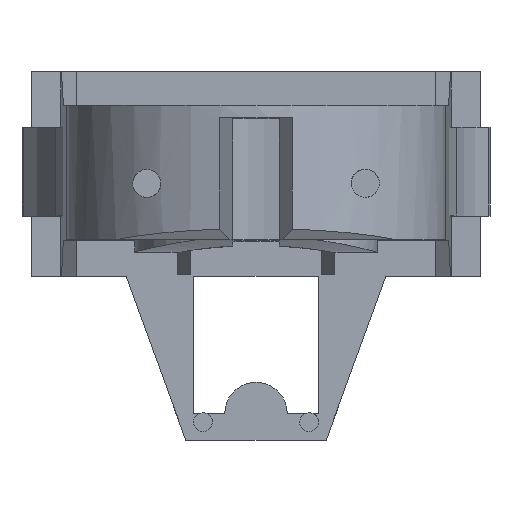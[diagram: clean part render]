
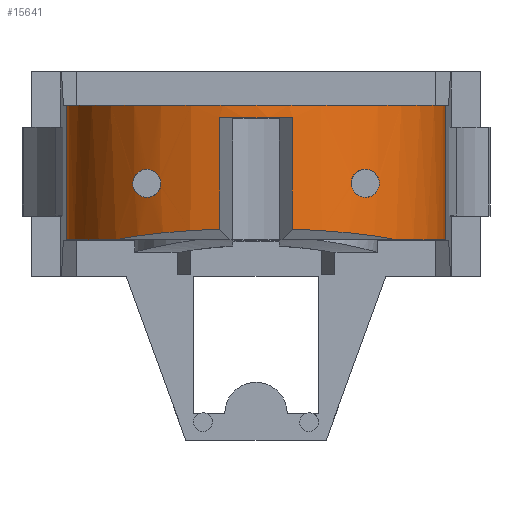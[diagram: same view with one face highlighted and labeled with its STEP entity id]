
A CAD part, top view. The second image highlights one B-rep face of the part: STEP entity #15641.
In plain terms, the highlighted cylindrical face has radius 12.15 mm (diameter 24.3 mm), a partial arc.
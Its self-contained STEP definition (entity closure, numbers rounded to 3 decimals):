
#10826=CARTESIAN_POINT(' ',(12.15,8.6,0.));
#10827=VERTEX_POINT(' ',#10826);
#10841=CARTESIAN_POINT(' ',(12.15,8.6,0.));
#10846=DIRECTION(' ',(0.,-1.,0.));
#10851=VECTOR(' ',#10846,1.);
#10856=LINE('',#10841,#10851);
#10861=CARTESIAN_POINT(' ',(12.15,0.,0.));
#10862=VERTEX_POINT(' ',#10861);
#10866=EDGE_CURVE(' ',#10827,#10862,#10856,.T.);
#11386=CARTESIAN_POINT(' ',(-12.15,0.,0.));
#11387=VERTEX_POINT(' ',#11386);
#11401=CARTESIAN_POINT(' ',(-12.15,8.6,0.));
#11406=DIRECTION(' ',(0.,-1.,0.));
#11411=VECTOR(' ',#11406,1.);
#11416=LINE('',#11401,#11411);
#11421=CARTESIAN_POINT(' ',(-12.15,8.6,0.));
#11422=VERTEX_POINT(' ',#11421);
#11426=EDGE_CURVE(' ',#11422,#11387,#11416,.T.);
#14681=CARTESIAN_POINT(' ',(0.,8.6,0.));
#14686=DIRECTION(' ',(0.,-1.,0.));
#14691=DIRECTION(' ',(1.,0.,0.));
#14696=AXIS2_PLACEMENT_3D(' ',#14681,#14686,#14691);
#14701=CIRCLE('',#14696,12.15);
#14706=EDGE_CURVE(' ',#10827,#11422,#14701,.T.);
#15036=CARTESIAN_POINT(' ',(0.,8.6,0.));
#15041=DIRECTION(' ',(0.,-1.,0.));
#15046=DIRECTION(' ',(1.,0.,0.));
#15051=AXIS2_PLACEMENT_3D(' ',#15036,#15041,#15046);
#15056=CYLINDRICAL_SURFACE(' ',#15051,12.15);
#15061=CARTESIAN_POINT(' ',(-2.335,0.66,11.923));
#15066=DIRECTION(' ',(0.,1.,0.));
#15071=VECTOR(' ',#15066,1.);
#15076=LINE('',#15061,#15071);
#15081=CARTESIAN_POINT(' ',(-2.335,0.66,11.923));
#15082=VERTEX_POINT(' ',#15081);
#15086=CARTESIAN_POINT(' ',(-2.335,7.8,11.923));
#15087=VERTEX_POINT(' ',#15086);
#15091=EDGE_CURVE(' ',#15082,#15087,#15076,.T.);
#15096=ORIENTED_EDGE(' ',*,*,#15091,.T.);
#15101=CARTESIAN_POINT(' ',(0.,7.8,-0.001));
#15106=DIRECTION(' ',(0.,1.,0.));
#15111=DIRECTION(' ',(-0.192,0.,0.981));
#15116=AXIS2_PLACEMENT_3D(' ',#15101,#15106,#15111);
#15121=CIRCLE('',#15116,12.15);
#15126=CARTESIAN_POINT(' ',(2.335,7.8,11.923));
#15127=VERTEX_POINT(' ',#15126);
#15131=EDGE_CURVE(' ',#15087,#15127,#15121,.T.);
#15136=ORIENTED_EDGE(' ',*,*,#15131,.T.);
#15141=CARTESIAN_POINT(' ',(2.335,0.66,11.923));
#15146=DIRECTION(' ',(0.,1.,0.));
#15151=VECTOR(' ',#15146,1.);
#15156=LINE('',#15141,#15151);
#15161=CARTESIAN_POINT(' ',(2.335,0.66,11.923));
#15162=VERTEX_POINT(' ',#15161);
#15166=EDGE_CURVE(' ',#15162,#15127,#15156,.T.);
#15171=ORIENTED_EDGE(' ',*,*,#15166,.F.);
#15176=CARTESIAN_POINT(' ',(-0.041,-1.401,0.232));
#15181=DIRECTION(' ',(0.,-0.985,0.174));
#15186=DIRECTION(' ',(0.745,0.116,0.656));
#15191=AXIS2_PLACEMENT_3D(' ',#15176,#15181,#15186);
#15196=CIRCLE('',#15191,12.108);
#15201=CARTESIAN_POINT(' ',(8.984,0.,8.18));
#15202=VERTEX_POINT(' ',#15201);
#15206=EDGE_CURVE(' ',#15202,#15162,#15196,.T.);
#15211=ORIENTED_EDGE(' ',*,*,#15206,.F.);
#15216=CARTESIAN_POINT(' ',(0.,0.,0.));
#15221=DIRECTION(' ',(0.,-1.,0.));
#15226=DIRECTION(' ',(1.,0.,0.));
#15231=AXIS2_PLACEMENT_3D(' ',#15216,#15221,#15226);
#15236=CIRCLE('',#15231,12.15);
#15241=EDGE_CURVE(' ',#10862,#15202,#15236,.T.);
#15246=ORIENTED_EDGE(' ',*,*,#15241,.F.);
#15251=ORIENTED_EDGE(' ',*,*,#10866,.F.);
#15256=ORIENTED_EDGE(' ',*,*,#14706,.T.);
#15261=ORIENTED_EDGE(' ',*,*,#11426,.T.);
#15266=CARTESIAN_POINT(' ',(0.,0.,0.));
#15271=DIRECTION(' ',(0.,-1.,0.));
#15276=DIRECTION(' ',(-0.739,0.,0.673));
#15281=AXIS2_PLACEMENT_3D(' ',#15266,#15271,#15276);
#15286=CIRCLE('',#15281,12.15);
#15291=CARTESIAN_POINT(' ',(-8.984,0.,8.18));
#15292=VERTEX_POINT(' ',#15291);
#15296=EDGE_CURVE(' ',#15292,#11387,#15286,.T.);
#15301=ORIENTED_EDGE(' ',*,*,#15296,.F.);
#15306=CARTESIAN_POINT(' ',(0.039,-1.401,0.236));
#15311=DIRECTION(' ',(0.,-0.985,0.174));
#15316=DIRECTION(' ',(-0.196,0.17,0.966));
#15321=AXIS2_PLACEMENT_3D(' ',#15306,#15311,#15316);
#15326=CIRCLE('',#15321,12.103);
#15331=EDGE_CURVE(' ',#15082,#15292,#15326,.T.);
#15336=ORIENTED_EDGE(' ',*,*,#15331,.F.);
#15341=EDGE_LOOP(' ',(#15096,#15136,#15171,#15211,#15246,#15251,#15256,#15261,#15301,#15336));
#15346=FACE_OUTER_BOUND(' ',#15341,.T.);
#15351=CARTESIAN_POINT(' ',(7.,4.5,9.931));
#15356=CARTESIAN_POINT(' ',(6.692,4.5,10.148));
#15361=CARTESIAN_POINT(' ',(6.36,4.324,10.355));
#15366=CARTESIAN_POINT(' ',(6.106,3.827,10.505));
#15371=CARTESIAN_POINT(' ',(6.076,3.602,10.522));
#15376=CARTESIAN_POINT(' ',(6.18,3.152,10.461));
#15381=CARTESIAN_POINT(' ',(6.344,2.945,10.365));
#15386=CARTESIAN_POINT(' ',(6.682,2.742,10.149));
#15391=CARTESIAN_POINT(' ',(6.843,2.7,10.041));
#15396=CARTESIAN_POINT(' ',(7.,2.7,9.931));
#15401=B_SPLINE_CURVE_WITH_KNOTS('',3,(#15351,#15356,#15361,#15366,#15371,#15376,#15381,#15386,#15391,#15396),.UNSPECIFIED.,.F.,.U.,(4,2,2,2,4),(0.,0.358,0.566,0.815,1.),.UNSPECIFIED.);
#15406=CARTESIAN_POINT(' ',(7.,4.5,9.931));
#15407=VERTEX_POINT(' ',#15406);
#15411=CARTESIAN_POINT(' ',(7.,2.7,9.931));
#15412=VERTEX_POINT(' ',#15411);
#15416=EDGE_CURVE(' ',#15407,#15412,#15401,.T.);
#15421=ORIENTED_EDGE(' ',*,*,#15416,.F.);
#15426=CARTESIAN_POINT(' ',(7.,2.7,9.931));
#15431=CARTESIAN_POINT(' ',(7.302,2.7,9.718));
#15436=CARTESIAN_POINT(' ',(7.611,2.852,9.473));
#15441=CARTESIAN_POINT(' ',(7.867,3.307,9.259));
#15446=CARTESIAN_POINT(' ',(7.912,3.494,9.22));
#15451=CARTESIAN_POINT(' ',(7.877,3.9,9.25));
#15456=CARTESIAN_POINT(' ',(7.769,4.105,9.343));
#15461=CARTESIAN_POINT(' ',(7.458,4.412,9.594));
#15466=CARTESIAN_POINT(' ',(7.224,4.5,9.773));
#15471=CARTESIAN_POINT(' ',(7.,4.5,9.931));
#15476=B_SPLINE_CURVE_WITH_KNOTS('',3,(#15426,#15431,#15436,#15441,#15446,#15451,#15456,#15461,#15466,#15471),.UNSPECIFIED.,.F.,.U.,(4,2,2,2,4),(0.,0.358,0.531,0.738,1.),.UNSPECIFIED.);
#15481=EDGE_CURVE(' ',#15412,#15407,#15476,.T.);
#15486=ORIENTED_EDGE(' ',*,*,#15481,.F.);
#15491=EDGE_LOOP(' ',(#15421,#15486));
#15496=FACE_BOUND(' ',#15491,.T.);
#15501=CARTESIAN_POINT(' ',(-7.,4.5,9.931));
#15506=CARTESIAN_POINT(' ',(-7.375,4.5,9.666));
#15511=CARTESIAN_POINT(' ',(-7.77,4.246,9.342));
#15516=CARTESIAN_POINT(' ',(-7.917,3.635,9.216));
#15521=CARTESIAN_POINT(' ',(-7.903,3.443,9.229));
#15526=CARTESIAN_POINT(' ',(-7.698,2.905,9.402));
#15531=CARTESIAN_POINT(' ',(-7.346,2.7,9.687));
#15536=CARTESIAN_POINT(' ',(-7.,2.7,9.931));
#15541=B_SPLINE_CURVE_WITH_KNOTS('',3,(#15501,#15506,#15511,#15516,#15521,#15526,#15531,#15536),.UNSPECIFIED.,.F.,.U.,(4,2,2,4),(0.,0.43,0.603,1.),.UNSPECIFIED.);
#15546=CARTESIAN_POINT(' ',(-7.,4.5,9.931));
#15547=VERTEX_POINT(' ',#15546);
#15551=CARTESIAN_POINT(' ',(-7.,2.7,9.931));
#15552=VERTEX_POINT(' ',#15551);
#15556=EDGE_CURVE(' ',#15547,#15552,#15541,.T.);
#15561=ORIENTED_EDGE(' ',*,*,#15556,.F.);
#15566=CARTESIAN_POINT(' ',(-7.,2.7,9.931));
#15571=CARTESIAN_POINT(' ',(-6.648,2.7,10.179));
#15576=CARTESIAN_POINT(' ',(-6.256,2.93,10.417));
#15581=CARTESIAN_POINT(' ',(-6.077,3.556,10.522));
#15586=CARTESIAN_POINT(' ',(-6.095,3.79,10.511));
#15591=CARTESIAN_POINT(' ',(-6.318,4.263,10.379));
#15596=CARTESIAN_POINT(' ',(-6.581,4.437,10.218));
#15601=CARTESIAN_POINT(' ',(-6.891,4.495,10.007));
#15606=CARTESIAN_POINT(' ',(-6.946,4.5,9.969));
#15611=CARTESIAN_POINT(' ',(-7.,4.5,9.931));
#15616=B_SPLINE_CURVE_WITH_KNOTS('',3,(#15566,#15571,#15576,#15581,#15586,#15591,#15596,#15601,#15606,#15611),.UNSPECIFIED.,.F.,.U.,(4,2,2,2,4),(0.,0.43,0.637,0.936,1.),.UNSPECIFIED.);
#15621=EDGE_CURVE(' ',#15552,#15547,#15616,.T.);
#15626=ORIENTED_EDGE(' ',*,*,#15621,.F.);
#15631=EDGE_LOOP(' ',(#15561,#15626));
#15636=FACE_BOUND(' ',#15631,.T.);
#15641=ADVANCED_FACE('',(#15346,#15496,#15636),#15056,.T.);
